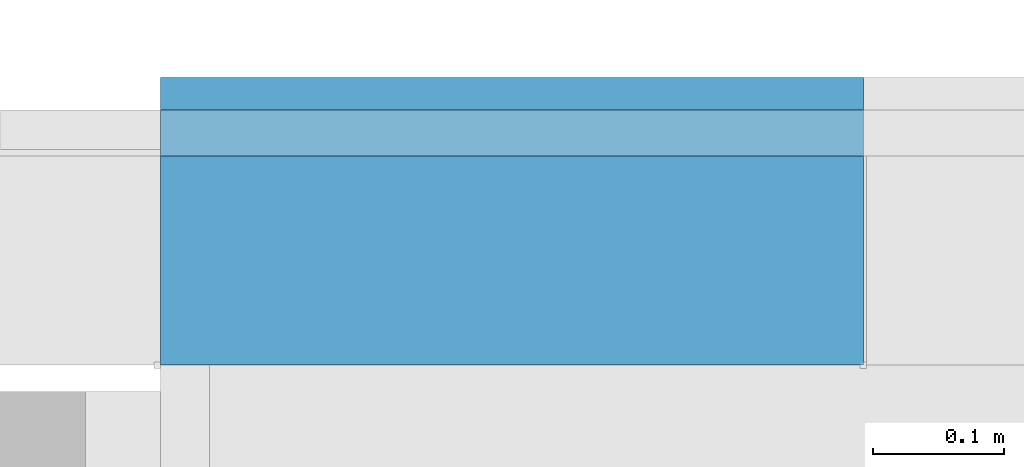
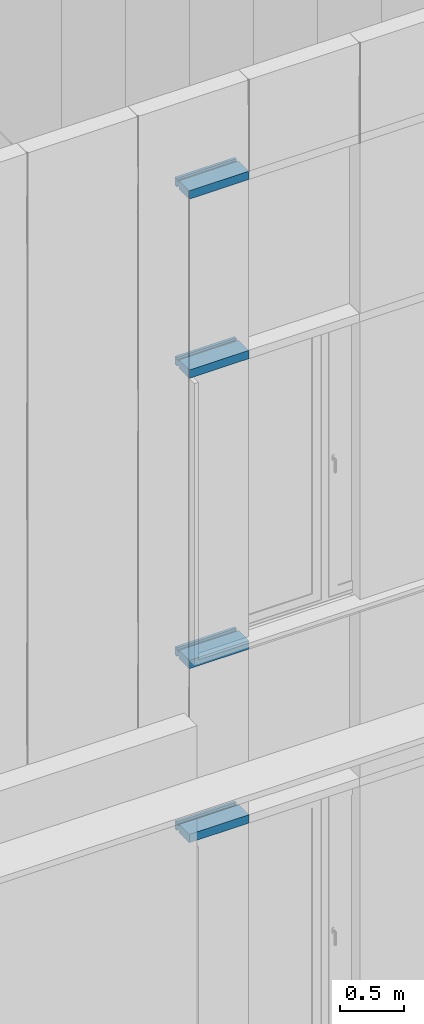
# One storey, part 203 of 302: 4 members, 1 element without a shape of its own.
"""IFC2X3 building model written with IfcOpenShell, lengths in metres."""

from ifc_helpers import new_model, entity, si_unit, converted_unit, derived_unit, direction, frame, origin, place, context, subcontext, project, spatial, polyline, outline, extrude, source, transform, mapped, material, type_object, type_shapes, element, aggregate, save


model = new_model("IFC2X3")

# Units and contexts
model_context = context("Model", 3, precision=1e-05, world=origin(), true_north=direction((6.12303176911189e-17, 1.0)))
body_context = subcontext(model_context, "Body", "Model", "MODEL_VIEW")
ifc_project = project(units=[si_unit("LENGTHUNIT", "METRE"), si_unit("AREAUNIT", "SQUARE_METRE"), si_unit("VOLUMEUNIT", "CUBIC_METRE"), converted_unit("PLANEANGLEUNIT", "DEGREE", entity("IfcRatioMeasure", 0.0174532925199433), si_unit("PLANEANGLEUNIT", "RADIAN"), dimensions=[0, 0, 0, 0, 0, 0, 0]), si_unit("MASSUNIT", "GRAM", prefix="KILO"), derived_unit("MASSDENSITYUNIT", [(si_unit("MASSUNIT", "GRAM", prefix="KILO"), 1), (si_unit("LENGTHUNIT", "METRE"), -3)]), derived_unit("MOMENTOFINERTIAUNIT", [(si_unit("LENGTHUNIT", "METRE"), 4)]), si_unit("TIMEUNIT", "SECOND"), si_unit("FREQUENCYUNIT", "HERTZ"), si_unit("THERMODYNAMICTEMPERATUREUNIT", "DEGREE_CELSIUS"), derived_unit("THERMALTRANSMITTANCEUNIT", [(si_unit("MASSUNIT", "GRAM", prefix="KILO"), 1), (si_unit("THERMODYNAMICTEMPERATUREUNIT", "KELVIN"), -1), (si_unit("TIMEUNIT", "SECOND"), -3)]), derived_unit("VOLUMETRICFLOWRATEUNIT", [(si_unit("LENGTHUNIT", "METRE"), 3), (si_unit("TIMEUNIT", "SECOND"), -1)]), si_unit("ELECTRICCURRENTUNIT", "AMPERE"), si_unit("ELECTRICVOLTAGEUNIT", "VOLT"), si_unit("POWERUNIT", "WATT"), si_unit("FORCEUNIT", "NEWTON", prefix="KILO"), si_unit("ILLUMINANCEUNIT", "LUX"), si_unit("LUMINOUSFLUXUNIT", "LUMEN"), si_unit("LUMINOUSINTENSITYUNIT", "CANDELA"), derived_unit("USERDEFINED", [(si_unit("MASSUNIT", "GRAM", prefix="KILO"), -1), (si_unit("LENGTHUNIT", "METRE"), -2), (si_unit("TIMEUNIT", "SECOND"), 3), (si_unit("LUMINOUSFLUXUNIT", "LUMEN"), 1)]), derived_unit("LINEARVELOCITYUNIT", [(si_unit("LENGTHUNIT", "METRE"), 1), (si_unit("TIMEUNIT", "SECOND"), -1)]), si_unit("PRESSUREUNIT", "PASCAL"), derived_unit("USERDEFINED", [(si_unit("LENGTHUNIT", "METRE"), -2), (si_unit("MASSUNIT", "GRAM", prefix="KILO"), 1), (si_unit("TIMEUNIT", "SECOND"), -2)]), derived_unit("LINEARFORCEUNIT", [(si_unit("MASSUNIT", "GRAM", prefix="KILO"), 1), (si_unit("LENGTHUNIT", "METRE"), 1), (si_unit("TIMEUNIT", "SECOND"), -2), (si_unit("LENGTHUNIT", "METRE"), -1)]), derived_unit("PLANARFORCEUNIT", [(si_unit("MASSUNIT", "GRAM", prefix="KILO"), 1), (si_unit("LENGTHUNIT", "METRE"), 1), (si_unit("TIMEUNIT", "SECOND"), -2), (si_unit("LENGTHUNIT", "METRE"), -2)])], contexts=[model_context])

# Site, building, storey
site_placement = place(None, origin())
site = spatial("IfcSite", under=ifc_project, at=site_placement, Name="Default", CompositionType="ELEMENT")
building_placement = place(site_placement, origin())
building = spatial("IfcBuilding", under=site, at=building_placement, CompositionType="ELEMENT")
storey_placement = place(building_placement, frame((0.0, 0.0, -1.3)))
storey = spatial("IfcBuildingStorey", under=building, at=storey_placement, Name="00_EG", CompositionType="ELEMENT", Elevation=-1.3)

# Curtain wall, members
curtain_wall_type = type_object("IfcCurtainWallType", Name="Fassade:Curtain Wall 1", PredefinedType="NOTDEFINED")
curtain_wall_placement = place(storey_placement, frame((0.0, 0.0, 1.3)))
curtain_wall = element("IfcCurtainWall", 1, at=curtain_wall_placement, inside=storey, type_object=curtain_wall_type, Name="Fassade:Curtain Wall 1", ObjectType="Fassade:Curtain Wall 1")
ifc_material = material(Name="Prepainted_Steel-ArcelorMittal_Construction_HAIRULTRA-35-CORAL-4309-[RAL_3000]")
member_type_1 = type_object("IfcMemberType", Name="Rectangular Mullion:Fassadenrahmen Typ 1", PredefinedType="MULLION", material=ifc_material)
shared_shape_1 = source(origin(), body_context, "Body", "SweptSolid", [
    extrude(outline(polyline([(-0.065, -0.04), (-0.04, -0.04), (-0.04, -0.02), (-0.00499999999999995, -0.02), (-0.00499999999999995, -0.04), (0.155, -0.04), (0.155, 0.04), (-0.00499999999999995, 0.04), (-0.00499999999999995, 0.02), (-0.04, 0.02), (-0.04, 0.04), (-0.065, 0.04), (-0.065, -0.04)])), frame((0.0, 0.155, -0.537500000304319), z_axis=(0.0, 0.0, 1.0), x_axis=(0.0, -1.0, 0.0)), (0.0, 0.0, 1.0), 0.537500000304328),
])
type_shapes(member_type_1, [shared_shape_1])
member_1_placement = place(storey_placement, frame((-213.147611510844, 45.578088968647, 4.06999999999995), z_axis=(-1.0, 0.0, 0.0), x_axis=(0.0, 0.0, 1.0)))
member_1 = element("IfcMember", 2, at=member_1_placement, type_object=member_type_1, material=ifc_material, Name="Rectangular Mullion:Fassadenrahmen Typ 1", ObjectType="Rectangular Mullion:Fassadenrahmen Typ 1", context=body_context, shape_type="MappedRepresentation", body=[
    mapped(shared_shape_1, transform((0.0, 0.0, 0.0), scale=1.0)),
])
member_2_placement = place(storey_placement, frame((-213.147611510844, 45.578088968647, 5.73), z_axis=(-1.0, 0.0, 0.0), x_axis=(0.0, 0.0, 1.0)))
member_2 = element("IfcMember", 3, at=member_2_placement, type_object=member_type_1, material=ifc_material, Name="Rectangular Mullion:Fassadenrahmen Typ 1", ObjectType="Rectangular Mullion:Fassadenrahmen Typ 1", context=body_context, shape_type="MappedRepresentation", body=[
    mapped(shared_shape_1, transform((0.0, 0.0, 0.0), scale=1.0)),
])
member_3_placement = place(storey_placement, frame((-213.147611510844, 45.578088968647, 8.49999999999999), z_axis=(-1.0, 0.0, 0.0), x_axis=(0.0, 0.0, 1.0)))
member_3 = element("IfcMember", 4, at=member_3_placement, type_object=member_type_1, material=ifc_material, Name="Rectangular Mullion:Fassadenrahmen Typ 1", ObjectType="Rectangular Mullion:Fassadenrahmen Typ 1", context=body_context, shape_type="MappedRepresentation", body=[
    mapped(shared_shape_1, transform((0.0, 0.0, 0.0), scale=1.0)),
])
member_type_2 = type_object("IfcMemberType", Name="Rectangular Mullion:Fassadenrahmen Typ 1", PredefinedType="MULLION", material=ifc_material)
shared_shape_2 = source(origin(), body_context, "Body", "SweptSolid", [
    extrude(outline(polyline([(-0.065, -0.04), (-0.04, -0.04), (-0.04, -0.02), (-0.00499999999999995, -0.02), (-0.00499999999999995, -0.04), (0.155, -0.04), (0.155, 0.04), (-0.00499999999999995, 0.04), (-0.00499999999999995, 0.02), (-0.04, 0.02), (-0.04, 0.04), (-0.065, 0.04), (-0.065, -0.04)])), frame((0.0, 0.155, -0.537500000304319), z_axis=(0.0, 0.0, 1.0), x_axis=(0.0, -1.0, 0.0)), (0.0, 0.0, 1.0), 0.537500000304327),
])
type_shapes(member_type_2, [shared_shape_2])
member_4_placement = place(storey_placement, frame((-213.147611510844, 45.578088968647, 10.2096475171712), z_axis=(-1.0, 0.0, 0.0), x_axis=(0.0, 0.0, 1.0)))
member_4 = element("IfcMember", 5, at=member_4_placement, type_object=member_type_2, material=ifc_material, Name="Rectangular Mullion:Fassadenrahmen Typ 1", ObjectType="Rectangular Mullion:Fassadenrahmen Typ 1", context=body_context, shape_type="MappedRepresentation", body=[
    mapped(shared_shape_2, transform((0.0, 0.0, 0.0), scale=1.0)),
])
aggregate(curtain_wall, [member_1, member_2, member_3, member_4])

save(model, "model.ifc")
